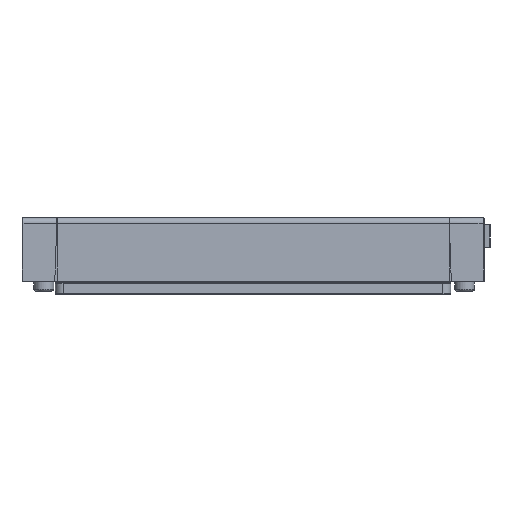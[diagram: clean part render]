
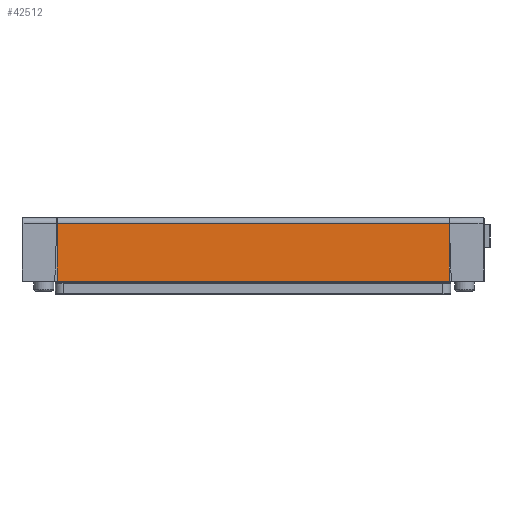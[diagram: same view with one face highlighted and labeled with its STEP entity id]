
A CAD part, front view. The second image highlights one B-rep face of the part: STEP entity #42512.
In plain terms, the highlighted planar face has unit normal (0, -0.999, 0.035).
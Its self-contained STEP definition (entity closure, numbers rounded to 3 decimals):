
#4612 = CYLINDRICAL_SURFACE('',#4613,3.);
#4613 = AXIS2_PLACEMENT_3D('',#4614,#4615,#4616);
#4614 = CARTESIAN_POINT('',(270.2,163.95,48.3));
#4615 = DIRECTION('',(-1.,-0.,-0.));
#4616 = DIRECTION('',(0.,-0.999,0.035));
#22768 = B_SPLINE_SURFACE_WITH_KNOTS('',1,1,(
    (#22769,#22770)
    ,(#22771,#22772
    )),.UNSPECIFIED.,.F.,.F.,.F.,(2,2),(2,2),(-9.853,0.),(0.,1.),
  .PIECEWISE_BEZIER_KNOTS.);
#22769 = CARTESIAN_POINT('',(270.2,161.053,51.3));
#22770 = CARTESIAN_POINT('',(270.2,159.904,18.4));
#22771 = CARTESIAN_POINT('',(280.053,161.053,51.3));
#22772 = CARTESIAN_POINT('',(278.904,159.904,18.4));
#24096 = VERTEX_POINT('',#24097);
#24097 = CARTESIAN_POINT('',(70.8,160.951,48.405));
#24141 = B_SPLINE_SURFACE_WITH_KNOTS('',1,1,(
    (#24142,#24143)
    ,(#24144,#24145
    )),.UNSPECIFIED.,.F.,.F.,.F.,(2,2),(2,2),(-7.584,0.),(0.,1.),
  .PIECEWISE_BEZIER_KNOTS.);
#24142 = CARTESIAN_POINT('',(63.216,161.053,51.3));
#24143 = CARTESIAN_POINT('',(64.365,159.904,18.4));
#24144 = CARTESIAN_POINT('',(70.8,161.053,51.3));
#24145 = CARTESIAN_POINT('',(70.8,159.904,18.4));
#24206 = VERTEX_POINT('',#24207);
#24207 = CARTESIAN_POINT('',(270.2,160.951,48.405));
#24238 = EDGE_CURVE('',#24206,#24096,#24239,.T.);
#24239 = SURFACE_CURVE('',#24240,(#24244,#24251),.PCURVE_S1.);
#24240 = LINE('',#24241,#24242);
#24241 = CARTESIAN_POINT('',(270.2,160.951,48.405));
#24242 = VECTOR('',#24243,1.);
#24243 = DIRECTION('',(-1.,-0.,-0.));
#24244 = PCURVE('',#4612,#24245);
#24245 = DEFINITIONAL_REPRESENTATION('',(#24246),#24250);
#24246 = LINE('',#24247,#24248);
#24247 = CARTESIAN_POINT('',(0.,0.));
#24248 = VECTOR('',#24249,1.);
#24249 = DIRECTION('',(0.,1.));
#24250 = ( GEOMETRIC_REPRESENTATION_CONTEXT(2) 
PARAMETRIC_REPRESENTATION_CONTEXT() REPRESENTATION_CONTEXT('2D SPACE',''
  ) );
#24251 = PCURVE('',#24252,#24257);
#24252 = PLANE('',#24253);
#24253 = AXIS2_PLACEMENT_3D('',#24254,#24255,#24256);
#24254 = CARTESIAN_POINT('',(70.8,159.904,18.4));
#24255 = DIRECTION('',(0.,0.999,-0.035));
#24256 = DIRECTION('',(1.,0.,0.));
#24257 = DEFINITIONAL_REPRESENTATION('',(#24258),#24262);
#24258 = LINE('',#24259,#24260);
#24259 = CARTESIAN_POINT('',(199.4,-30.023));
#24260 = VECTOR('',#24261,1.);
#24261 = DIRECTION('',(-1.,0.));
#24262 = ( GEOMETRIC_REPRESENTATION_CONTEXT(2) 
PARAMETRIC_REPRESENTATION_CONTEXT() REPRESENTATION_CONTEXT('2D SPACE',''
  ) );
#41158 = VERTEX_POINT('',#41159);
#41159 = CARTESIAN_POINT('',(270.2,159.924,18.979));
#41193 = EDGE_CURVE('',#24206,#41158,#41194,.T.);
#41194 = SURFACE_CURVE('',#41195,(#41198,#41205),.PCURVE_S1.);
#41195 = B_SPLINE_CURVE_WITH_KNOTS('',1,(#41196,#41197),.UNSPECIFIED.,
  .F.,.F.,(2,2),(0.,1.),.PIECEWISE_BEZIER_KNOTS.);
#41196 = CARTESIAN_POINT('',(270.2,161.053,51.3));
#41197 = CARTESIAN_POINT('',(270.2,159.904,18.4));
#41198 = PCURVE('',#22768,#41199);
#41199 = DEFINITIONAL_REPRESENTATION('',(#41200),#41204);
#41200 = LINE('',#41201,#41202);
#41201 = CARTESIAN_POINT('',(-9.853,0.));
#41202 = VECTOR('',#41203,1.);
#41203 = DIRECTION('',(0.,1.));
#41204 = ( GEOMETRIC_REPRESENTATION_CONTEXT(2) 
PARAMETRIC_REPRESENTATION_CONTEXT() REPRESENTATION_CONTEXT('2D SPACE',''
  ) );
#41205 = PCURVE('',#24252,#41206);
#41206 = DEFINITIONAL_REPRESENTATION('',(#41207),#41210);
#41207 = B_SPLINE_CURVE_WITH_KNOTS('',1,(#41208,#41209),.UNSPECIFIED.,
  .F.,.F.,(2,2),(0.,1.),.PIECEWISE_BEZIER_KNOTS.);
#41208 = CARTESIAN_POINT('',(199.4,-32.92));
#41209 = CARTESIAN_POINT('',(199.4,0.));
#41210 = ( GEOMETRIC_REPRESENTATION_CONTEXT(2) 
PARAMETRIC_REPRESENTATION_CONTEXT() REPRESENTATION_CONTEXT('2D SPACE',''
  ) );
#41883 = VERTEX_POINT('',#41884);
#41884 = CARTESIAN_POINT('',(70.8,159.924,18.979));
#42494 = EDGE_CURVE('',#24096,#41883,#42495,.T.);
#42495 = SURFACE_CURVE('',#42496,(#42499,#42506),.PCURVE_S1.);
#42496 = B_SPLINE_CURVE_WITH_KNOTS('',1,(#42497,#42498),.UNSPECIFIED.,
  .F.,.F.,(2,2),(0.,1.),.PIECEWISE_BEZIER_KNOTS.);
#42497 = CARTESIAN_POINT('',(70.8,161.053,51.3));
#42498 = CARTESIAN_POINT('',(70.8,159.904,18.4));
#42499 = PCURVE('',#24141,#42500);
#42500 = DEFINITIONAL_REPRESENTATION('',(#42501),#42505);
#42501 = LINE('',#42502,#42503);
#42502 = CARTESIAN_POINT('',(0.,0.));
#42503 = VECTOR('',#42504,1.);
#42504 = DIRECTION('',(0.,1.));
#42505 = ( GEOMETRIC_REPRESENTATION_CONTEXT(2) 
PARAMETRIC_REPRESENTATION_CONTEXT() REPRESENTATION_CONTEXT('2D SPACE',''
  ) );
#42506 = PCURVE('',#24252,#42507);
#42507 = DEFINITIONAL_REPRESENTATION('',(#42508),#42511);
#42508 = B_SPLINE_CURVE_WITH_KNOTS('',1,(#42509,#42510),.UNSPECIFIED.,
  .F.,.F.,(2,2),(0.,1.),.PIECEWISE_BEZIER_KNOTS.);
#42509 = CARTESIAN_POINT('',(0.,-32.92));
#42510 = CARTESIAN_POINT('',(0.,0.));
#42511 = ( GEOMETRIC_REPRESENTATION_CONTEXT(2) 
PARAMETRIC_REPRESENTATION_CONTEXT() REPRESENTATION_CONTEXT('2D SPACE',''
  ) );
#42512 = ADVANCED_FACE('',(#42513),#24252,.F.);
#42513 = FACE_BOUND('',#42514,.F.);
#42514 = EDGE_LOOP('',(#42515,#42516,#42542,#42543));
#42515 = ORIENTED_EDGE('',*,*,#41193,.T.);
#42516 = ORIENTED_EDGE('',*,*,#42517,.T.);
#42517 = EDGE_CURVE('',#41158,#41883,#42518,.T.);
#42518 = SURFACE_CURVE('',#42519,(#42523,#42530),.PCURVE_S1.);
#42519 = LINE('',#42520,#42521);
#42520 = CARTESIAN_POINT('',(270.2,159.924,18.979));
#42521 = VECTOR('',#42522,1.);
#42522 = DIRECTION('',(-1.,-0.,-0.));
#42523 = PCURVE('',#24252,#42524);
#42524 = DEFINITIONAL_REPRESENTATION('',(#42525),#42529);
#42525 = LINE('',#42526,#42527);
#42526 = CARTESIAN_POINT('',(199.4,-0.579));
#42527 = VECTOR('',#42528,1.);
#42528 = DIRECTION('',(-1.,0.));
#42529 = ( GEOMETRIC_REPRESENTATION_CONTEXT(2) 
PARAMETRIC_REPRESENTATION_CONTEXT() REPRESENTATION_CONTEXT('2D SPACE',''
  ) );
#42530 = PCURVE('',#42531,#42536);
#42531 = CYLINDRICAL_SURFACE('',#42532,0.6);
#42532 = AXIS2_PLACEMENT_3D('',#42533,#42534,#42535);
#42533 = CARTESIAN_POINT('',(270.2,159.324,19.));
#42534 = DIRECTION('',(-1.,-0.,-0.));
#42535 = DIRECTION('',(0.,0.,-1.));
#42536 = DEFINITIONAL_REPRESENTATION('',(#42537),#42541);
#42537 = LINE('',#42538,#42539);
#42538 = CARTESIAN_POINT('',(-1.536,0.));
#42539 = VECTOR('',#42540,1.);
#42540 = DIRECTION('',(-0.,1.));
#42541 = ( GEOMETRIC_REPRESENTATION_CONTEXT(2) 
PARAMETRIC_REPRESENTATION_CONTEXT() REPRESENTATION_CONTEXT('2D SPACE',''
  ) );
#42542 = ORIENTED_EDGE('',*,*,#42494,.F.);
#42543 = ORIENTED_EDGE('',*,*,#24238,.F.);
